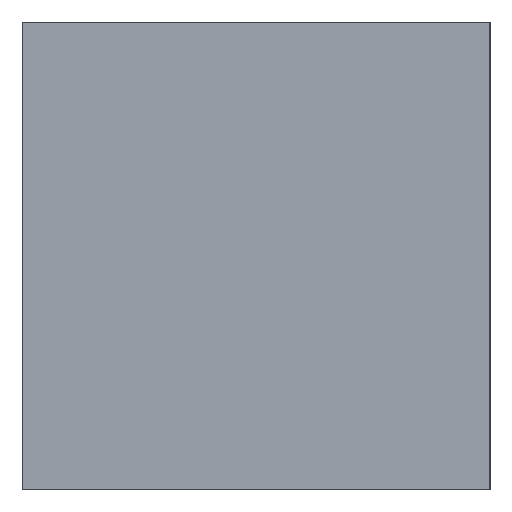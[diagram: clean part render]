
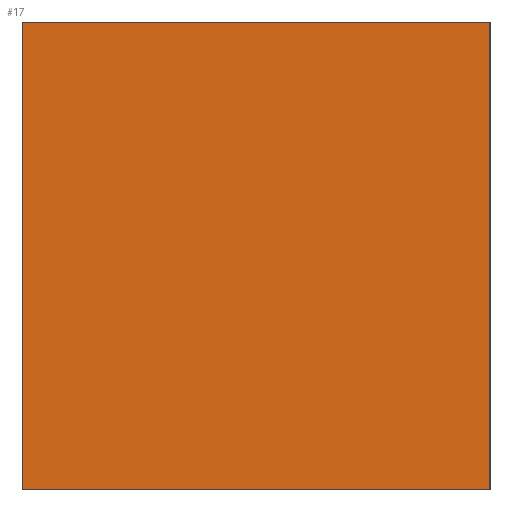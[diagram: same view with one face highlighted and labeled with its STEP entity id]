
A CAD part, left-side view. The second image highlights one B-rep face of the part: STEP entity #17.
In plain terms, the highlighted planar face has unit normal (-1, 0, 0).
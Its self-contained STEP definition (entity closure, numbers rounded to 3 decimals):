
#17 = ADVANCED_FACE('',(#18),#52,.F.);
#18 = FACE_BOUND('',#19,.F.);
#19 = EDGE_LOOP('',(#20,#30,#38,#46));
#20 = ORIENTED_EDGE('',*,*,#21,.F.);
#21 = EDGE_CURVE('',#22,#24,#26,.T.);
#22 = VERTEX_POINT('',#23);
#23 = CARTESIAN_POINT('',(-60.,-25.,-7.));
#24 = VERTEX_POINT('',#25);
#25 = CARTESIAN_POINT('',(-60.,-25.,7.));
#26 = LINE('',#27,#28);
#27 = CARTESIAN_POINT('',(-60.,-25.,-7.));
#28 = VECTOR('',#29,1.);
#29 = DIRECTION('',(0.,0.,1.));
#30 = ORIENTED_EDGE('',*,*,#31,.T.);
#31 = EDGE_CURVE('',#22,#32,#34,.T.);
#32 = VERTEX_POINT('',#33);
#33 = CARTESIAN_POINT('',(-60.,-11.,-7.));
#34 = LINE('',#35,#36);
#35 = CARTESIAN_POINT('',(-60.,-25.,-7.));
#36 = VECTOR('',#37,1.);
#37 = DIRECTION('',(0.,1.,0.));
#38 = ORIENTED_EDGE('',*,*,#39,.T.);
#39 = EDGE_CURVE('',#32,#40,#42,.T.);
#40 = VERTEX_POINT('',#41);
#41 = CARTESIAN_POINT('',(-60.,-11.,7.));
#42 = LINE('',#43,#44);
#43 = CARTESIAN_POINT('',(-60.,-11.,-7.));
#44 = VECTOR('',#45,1.);
#45 = DIRECTION('',(0.,0.,1.));
#46 = ORIENTED_EDGE('',*,*,#47,.F.);
#47 = EDGE_CURVE('',#24,#40,#48,.T.);
#48 = LINE('',#49,#50);
#49 = CARTESIAN_POINT('',(-60.,-25.,7.));
#50 = VECTOR('',#51,1.);
#51 = DIRECTION('',(0.,1.,0.));
#52 = PLANE('',#53);
#53 = AXIS2_PLACEMENT_3D('',#54,#55,#56);
#54 = CARTESIAN_POINT('',(-60.,-25.,-7.));
#55 = DIRECTION('',(1.,0.,0.));
#56 = DIRECTION('',(0.,0.,1.));
